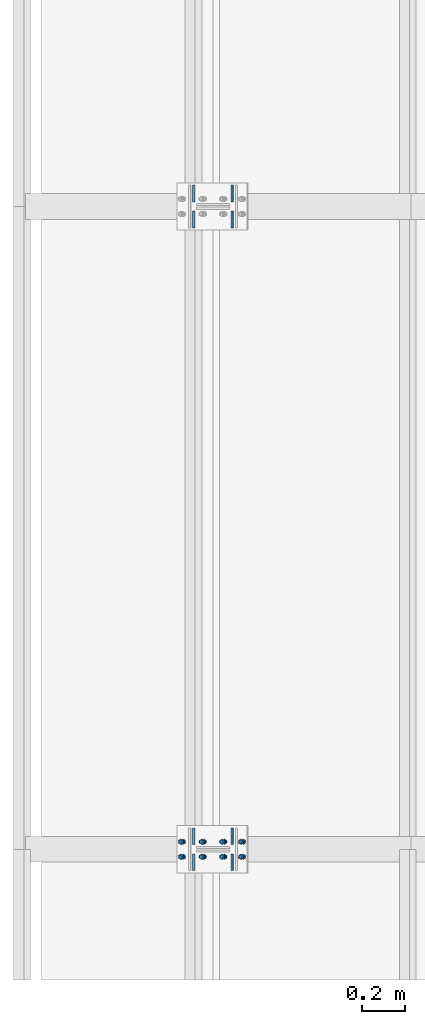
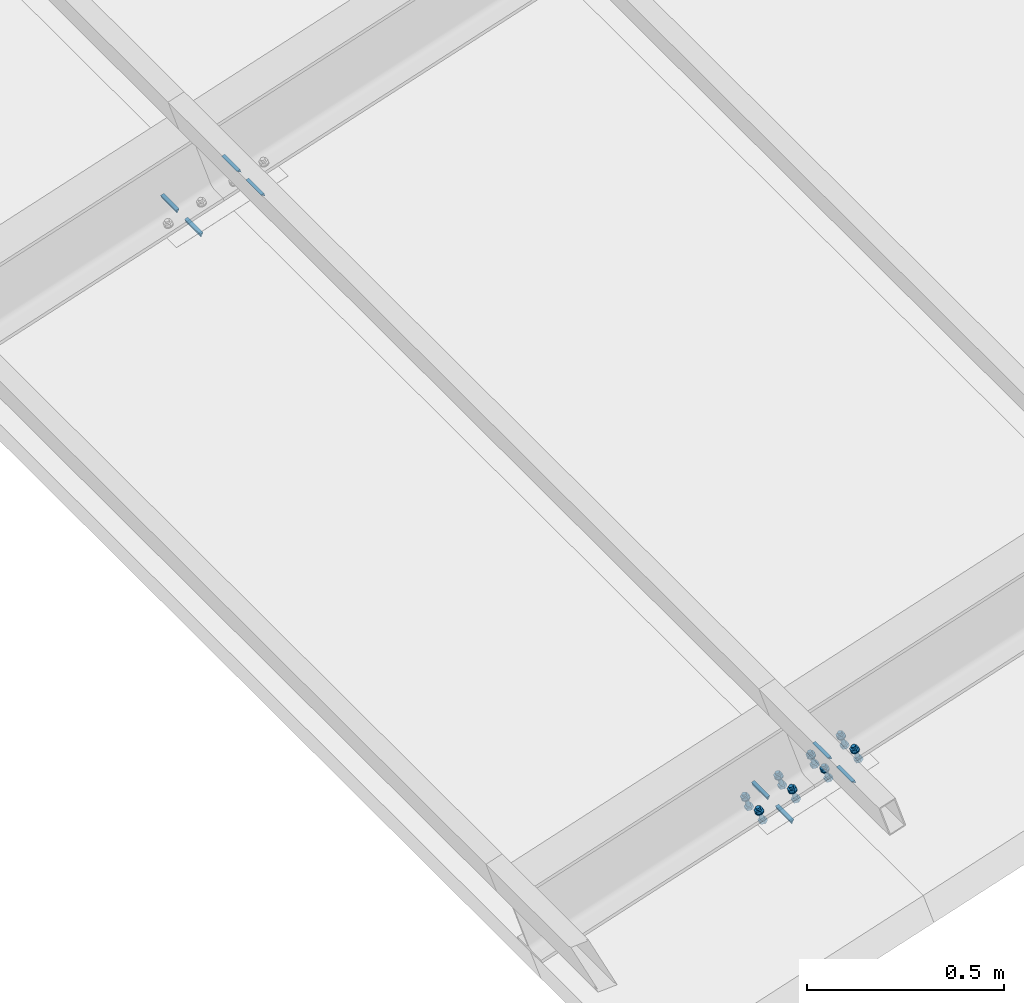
# One storey, part 24 of 53: 32 mechanical fasteners, 16 fasteners.
"""IFC4 building model written with IfcOpenShell, lengths in metres."""

from ifc_helpers import new_model, si_unit, frame, origin_with_axes, place, context, project, spatial, polyline, outline, extrude, type_object, element, save


model = new_model("IFC4")

# Units and contexts
model_context = context("Model", 3, precision=1e-05, world=origin_with_axes())
ifc_project = project(units=[si_unit("LENGTHUNIT", "METRE"), si_unit("AREAUNIT", "SQUARE_METRE"), si_unit("VOLUMEUNIT", "CUBIC_METRE"), si_unit("MASSUNIT", "GRAM", prefix="KILO"), si_unit("TIMEUNIT", "SECOND"), si_unit("PLANEANGLEUNIT", "RADIAN"), si_unit("SOLIDANGLEUNIT", "STERADIAN"), si_unit("THERMODYNAMICTEMPERATUREUNIT", "DEGREE_CELSIUS")], contexts=[model_context])

# Site, building, storey
placement_1 = place(None, origin_with_axes())
site = spatial("IfcSite", under=ifc_project, at=placement_1, Name="Italia", CompositionType="ELEMENT")
building = spatial("IfcBuilding", under=site, at=placement_1, Name="Capannone", CompositionType="ELEMENT")
storey_placement = place(None, frame((0.0, 0.0, 5.550000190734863), z_axis=(0.0, 0.0, 1.0), x_axis=(1.0, 0.0, 0.0)))
storey = spatial("IfcBuildingStorey", under=building, at=storey_placement, Name="Storey 1", CompositionType="ELEMENT", Elevation=5.550000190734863)

# Fasteners
fastener_type_1 = type_object("IfcFastenerType", Name="Collegamenti 0101_0001 0103_0003 0105_0005 0107_0007 0109_0009 0111_0011", PredefinedType="WELD")
placement_2 = place(placement_1, origin_with_axes())
fastener_1_placement = place(placement_2, origin_with_axes())
element("IfcFastener", 1, at=fastener_1_placement, inside=storey, type_object=fastener_type_1, Name="Collegamenti 0101_0001 0103_0003 0105_0005 0107_0007 0109_0009 0111_0011", context=model_context, shape_type="SweptSolid", body=[
    extrude(outline(polyline([(0.0, 0.0), (-0.00619942, -0.0127454), (-0.00937507, -0.00308037), (0.0, 0.0)])), frame((-0.0846885, 0.10005, 5.50644), z_axis=(0.0, -1.0, 0.0), x_axis=(1.0, 0.0, 0.0)), (0.0, 0.0, 1.0), 0.0786),
])
fastener_type_2 = type_object("IfcFastenerType", Name="Collegamenti 0101_0001 0103_0003 0105_0005 0107_0007 0109_0009 0111_0011", PredefinedType="WELD")
fastener_2_placement = place(placement_2, origin_with_axes())
element("IfcFastener", 2, at=fastener_2_placement, inside=storey, type_object=fastener_type_2, Name="Collegamenti 0101_0001 0103_0003 0105_0005 0107_0007 0109_0009 0111_0011", context=model_context, shape_type="SweptSolid", body=[
    extrude(outline(polyline([(0.0, 0.0), (-0.0125507, -0.00658464), (-0.00937507, 0.00308037), (0.0, 0.0)])), frame((0.0846564, 0.02145, 5.56208), z_axis=(0.0, 1.0, 0.0), x_axis=(-1.0, 0.0, 0.0)), (0.0, 0.0, 1.0), 0.0786),
])
fastener_type_3 = type_object("IfcFastenerType", Name="Collegamenti 0101_0001 0103_0003 0105_0005 0107_0007 0109_0009 0111_0011", PredefinedType="WELD")
fastener_3_placement = place(placement_2, origin_with_axes())
element("IfcFastener", 3, at=fastener_3_placement, inside=storey, type_object=fastener_type_3, Name="Collegamenti 0101_0001 0103_0003 0105_0005 0107_0007 0109_0009 0111_0011", context=model_context, shape_type="SweptSolid", body=[
    extrude(outline(polyline([(0.0, 0.0), (-0.0125507, -0.00658464), (-0.00937507, 0.00308037), (0.0, 0.0)])), frame((0.0846564, -0.10005, 5.56208), z_axis=(0.0, 1.0, 0.0), x_axis=(-1.0, 0.0, 0.0)), (0.0, 0.0, 1.0), 0.0786),
])
fastener_type_4 = type_object("IfcFastenerType", Name="Collegamenti 0101_0001 0103_0003 0105_0005 0107_0007 0109_0009 0111_0011", PredefinedType="WELD")
fastener_4_placement = place(placement_2, origin_with_axes())
element("IfcFastener", 4, at=fastener_4_placement, inside=storey, type_object=fastener_type_4, Name="Collegamenti 0101_0001 0103_0003 0105_0005 0107_0007 0109_0009 0111_0011", context=model_context, shape_type="SweptSolid", body=[
    extrude(outline(polyline([(0.0, 0.0), (-0.00619942, -0.0127454), (-0.00937507, -0.00308037), (0.0, 0.0)])), frame((-0.0846885, -0.02145, 5.50644), z_axis=(0.0, -1.0, 0.0), x_axis=(1.0, 0.0, 0.0)), (0.0, 0.0, 1.0), 0.0786),
])
fastener_type_5 = type_object("IfcFastenerType", Name="Collegamenti 0101_0001 0103_0003 0105_0005 0107_0007 0109_0009 0111_0011", PredefinedType="WELD")
fastener_5_placement = place(placement_2, origin_with_axes())
element("IfcFastener", 5, at=fastener_5_placement, inside=storey, type_object=fastener_type_5, Name="Collegamenti 0101_0001 0103_0003 0105_0005 0107_0007 0109_0009 0111_0011", context=model_context, shape_type="SweptSolid", body=[
    extrude(outline(polyline([(0.0, 0.0), (-0.00619942, -0.0127454), (-0.00937507, -0.00308037), (0.0, 0.0)])), frame((-0.0846885, 0.10005, 5.50644), z_axis=(0.0, -1.0, 0.0), x_axis=(1.0, 0.0, 0.0)), (0.0, 0.0, 1.0), 0.0786),
])
fastener_type_6 = type_object("IfcFastenerType", Name="Collegamenti 0101_0001 0103_0003 0105_0005 0107_0007 0109_0009 0111_0011", PredefinedType="WELD")
fastener_6_placement = place(placement_2, origin_with_axes())
element("IfcFastener", 6, at=fastener_6_placement, inside=storey, type_object=fastener_type_6, Name="Collegamenti 0101_0001 0103_0003 0105_0005 0107_0007 0109_0009 0111_0011", context=model_context, shape_type="SweptSolid", body=[
    extrude(outline(polyline([(0.0, 0.0), (-0.0125507, -0.00658464), (-0.00937507, 0.00308037), (0.0, 0.0)])), frame((0.0846564, 0.02145, 5.56208), z_axis=(0.0, 1.0, 0.0), x_axis=(-1.0, 0.0, 0.0)), (0.0, 0.0, 1.0), 0.0786),
])
fastener_type_7 = type_object("IfcFastenerType", Name="Collegamenti 0101_0001 0103_0003 0105_0005 0107_0007 0109_0009 0111_0011", PredefinedType="WELD")
fastener_7_placement = place(placement_2, origin_with_axes())
element("IfcFastener", 7, at=fastener_7_placement, inside=storey, type_object=fastener_type_7, Name="Collegamenti 0101_0001 0103_0003 0105_0005 0107_0007 0109_0009 0111_0011", context=model_context, shape_type="SweptSolid", body=[
    extrude(outline(polyline([(0.0, 0.0), (-0.0125507, -0.00658464), (-0.00937507, 0.00308037), (0.0, 0.0)])), frame((0.0846564, -0.10005, 5.56208), z_axis=(0.0, 1.0, 0.0), x_axis=(-1.0, 0.0, 0.0)), (0.0, 0.0, 1.0), 0.0786),
])
fastener_type_8 = type_object("IfcFastenerType", Name="Collegamenti 0101_0001 0103_0003 0105_0005 0107_0007 0109_0009 0111_0011", PredefinedType="WELD")
fastener_8_placement = place(placement_2, origin_with_axes())
element("IfcFastener", 8, at=fastener_8_placement, inside=storey, type_object=fastener_type_8, Name="Collegamenti 0101_0001 0103_0003 0105_0005 0107_0007 0109_0009 0111_0011", context=model_context, shape_type="SweptSolid", body=[
    extrude(outline(polyline([(0.0, 0.0), (-0.00619942, -0.0127454), (-0.00937507, -0.00308037), (0.0, 0.0)])), frame((-0.0846885, -0.02145, 5.50644), z_axis=(0.0, -1.0, 0.0), x_axis=(1.0, 0.0, 0.0)), (0.0, 0.0, 1.0), 0.0786),
])

# Mechanical fasteners
mechanical_fastener_type_1 = type_object("IfcMechanicalFastenerType", Name="Collegamenti 0101_0001 0103_0003 0105_0005 0107_0007 0109_0009 0111_0011", PredefinedType="BOLT")
mechanical_fastener_1_placement = place(placement_2, origin_with_axes())
element("IfcMechanicalFastener", 9, at=mechanical_fastener_1_placement, inside=storey, type_object=mechanical_fastener_type_1, Name="Collegamenti 0101_0001 0103_0003 0105_0005 0107_0007 0109_0009 0111_0011", NominalDiameter=0.012, context=model_context, shape_type="SweptSolid", body=[
    extrude(outline(polyline([(0.0, 0.0), (0.012, 0.0), (0.018, -0.0103923), (0.012, -0.0207845), (0.0, -0.0207845), (-0.006, -0.0103923), (0.0, 0.0)])), frame((-0.130325, 0.029, 5.49139), z_axis=(0.312164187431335, 0.0, -0.95002818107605), x_axis=(0.0, 1.0, 0.0)), (0.0, 0.0, 1.0), 0.0095997),
])
mechanical_fastener_type_2 = type_object("IfcMechanicalFastenerType", Name="Collegamenti 0101_0001 0103_0003 0105_0005 0107_0007 0109_0009 0111_0011", PredefinedType="BOLT")
mechanical_fastener_2_placement = place(placement_2, origin_with_axes())
element("IfcMechanicalFastener", 10, at=mechanical_fastener_2_placement, inside=storey, type_object=mechanical_fastener_type_2, Name="Collegamenti 0101_0001 0103_0003 0105_0005 0107_0007 0109_0009 0111_0011", NominalDiameter=0.012, context=model_context, shape_type="SweptSolid", body=[
    extrude(outline(polyline([(0.0, 0.0), (-0.000204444, -0.00155306), (-0.000803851, -0.00300002), (-0.00175736, -0.00424254), (-0.003, -0.00519633), (-0.00444709, -0.0057956), (-0.006, -0.00600004), (-0.00755291, -0.0057956), (-0.009, -0.00519633), (-0.0102426, -0.00424254), (-0.0111962, -0.00300002), (-0.0117956, -0.00155306), (-0.012, 0.0), (-0.0117956, 0.00155294), (-0.0111962, 0.00300002), (-0.0102426, 0.00424254), (-0.009, 0.00519621), (-0.00755291, 0.00579548), (-0.006, 0.00600004), (-0.00444709, 0.00579548), (-0.003, 0.00519621), (-0.00175736, 0.00424254), (-0.000803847, 0.00300002), (-0.000204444, 0.00155294), (0.0, 0.0)])), frame((-0.153558, 0.041, 5.52881), z_axis=(0.312153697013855, 0.0, -0.950031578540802), x_axis=(0.0, 1.0, 0.0)), (0.0, 0.0, 1.0), 0.0428),
])
mechanical_fastener_type_3 = type_object("IfcMechanicalFastenerType", Name="Collegamenti 0101_0001 0103_0003 0105_0005 0107_0007 0109_0009 0111_0011", PredefinedType="BOLT")
mechanical_fastener_3_placement = place(placement_2, origin_with_axes())
element("IfcMechanicalFastener", 11, at=mechanical_fastener_3_placement, inside=storey, type_object=mechanical_fastener_type_3, Name="Collegamenti 0101_0001 0103_0003 0105_0005 0107_0007 0109_0009 0111_0011", NominalDiameter=0.012, context=model_context, shape_type="SweptSolid", body=[
    extrude(outline(polyline([(0.0, 0.0), (0.012, 0.0), (0.018, -0.0103924), (0.012, -0.0207846), (0.0, -0.0207846), (-0.006, -0.0103924), (0.0, 0.0)])), frame((-0.141687, 0.029, 5.52597), z_axis=(0.312164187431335, 0.0, -0.95002818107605), x_axis=(0.0, 1.0, 0.0)), (0.0, 0.0, 1.0), 0.0095997),
])
mechanical_fastener_type_4 = type_object("IfcMechanicalFastenerType", Name="Collegamenti 0101_0001 0103_0003 0105_0005 0107_0007 0109_0009 0111_0011", PredefinedType="BOLT")
mechanical_fastener_4_placement = place(placement_2, origin_with_axes())
element("IfcMechanicalFastener", 12, at=mechanical_fastener_4_placement, inside=storey, type_object=mechanical_fastener_type_4, Name="Collegamenti 0101_0001 0103_0003 0105_0005 0107_0007 0109_0009 0111_0011", NominalDiameter=0.024, context=model_context, shape_type="SweptSolid", body=[
    extrude(outline(polyline([(0.0, 0.0), (-0.000408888, -0.00310576), (-0.00160769, -0.00599992), (-0.00351472, -0.0084852), (-0.006, -0.0103922), (-0.00889417, -0.0115911), (-0.012, -0.0119998), (-0.0151058, -0.0115911), (-0.018, -0.0103922), (-0.0204853, -0.0084852), (-0.0223923, -0.00599992), (-0.0235911, -0.00310576), (-0.024, 0.0), (-0.0235911, 0.003106), (-0.0223923, 0.00600016), (-0.0204853, 0.00848532), (-0.018, 0.0103924), (-0.0151058, 0.0115913), (-0.012, 0.0120001), (-0.00889417, 0.0115913), (-0.006, 0.0103924), (-0.00351471, 0.00848532), (-0.00160769, 0.00600016), (-0.000408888, 0.003106), (0.0, 0.0)])), frame((-0.148563, 0.047, 5.51361), z_axis=(0.312059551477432, 0.0, -0.95006251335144), x_axis=(0.0, 1.0, 0.0)), (0.0, 0.0, 1.0), 0.00200058),
])
mechanical_fastener_type_5 = type_object("IfcMechanicalFastenerType", Name="Collegamenti 0101_0001 0103_0003 0105_0005 0107_0007 0109_0009 0111_0011", PredefinedType="BOLT")
mechanical_fastener_5_placement = place(placement_2, origin_with_axes())
element("IfcMechanicalFastener", 13, at=mechanical_fastener_5_placement, inside=storey, type_object=mechanical_fastener_type_5, Name="Collegamenti 0101_0001 0103_0003 0105_0005 0107_0007 0109_0009 0111_0011", NominalDiameter=0.012, context=model_context, shape_type="SweptSolid", body=[
    extrude(outline(polyline([(0.0, 0.0), (0.012, 0.0), (0.018, -0.0103923), (0.012, -0.0207845), (0.0, -0.0207845), (-0.006, -0.0103923), (0.0, 0.0)])), frame((-0.130325, -0.041, 5.49139), z_axis=(0.312164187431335, 0.0, -0.95002818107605), x_axis=(0.0, 1.0, 0.0)), (0.0, 0.0, 1.0), 0.0095997),
])
mechanical_fastener_type_6 = type_object("IfcMechanicalFastenerType", Name="Collegamenti 0101_0001 0103_0003 0105_0005 0107_0007 0109_0009 0111_0011", PredefinedType="BOLT")
mechanical_fastener_6_placement = place(placement_2, origin_with_axes())
element("IfcMechanicalFastener", 14, at=mechanical_fastener_6_placement, inside=storey, type_object=mechanical_fastener_type_6, Name="Collegamenti 0101_0001 0103_0003 0105_0005 0107_0007 0109_0009 0111_0011", NominalDiameter=0.012, context=model_context, shape_type="SweptSolid", body=[
    extrude(outline(polyline([(0.0, 0.0), (-0.000204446, -0.00155306), (-0.000803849, -0.00300002), (-0.00175736, -0.00424254), (-0.003, -0.00519633), (-0.00444709, -0.0057956), (-0.006, -0.00600004), (-0.00755291, -0.0057956), (-0.009, -0.00519633), (-0.0102426, -0.00424254), (-0.0111962, -0.00300002), (-0.0117956, -0.00155306), (-0.012, 0.0), (-0.0117956, 0.00155294), (-0.0111962, 0.00300002), (-0.0102426, 0.00424254), (-0.009, 0.00519621), (-0.00755291, 0.00579548), (-0.006, 0.00600004), (-0.00444709, 0.00579548), (-0.003, 0.00519621), (-0.00175736, 0.00424254), (-0.000803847, 0.00300002), (-0.000204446, 0.00155294), (0.0, 0.0)])), frame((-0.153558, -0.029, 5.52881), z_axis=(0.312153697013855, 0.0, -0.950031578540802), x_axis=(0.0, 1.0, 0.0)), (0.0, 0.0, 1.0), 0.0428),
])
mechanical_fastener_type_7 = type_object("IfcMechanicalFastenerType", Name="Collegamenti 0101_0001 0103_0003 0105_0005 0107_0007 0109_0009 0111_0011", PredefinedType="BOLT")
mechanical_fastener_7_placement = place(placement_2, origin_with_axes())
element("IfcMechanicalFastener", 15, at=mechanical_fastener_7_placement, inside=storey, type_object=mechanical_fastener_type_7, Name="Collegamenti 0101_0001 0103_0003 0105_0005 0107_0007 0109_0009 0111_0011", NominalDiameter=0.012, context=model_context, shape_type="SweptSolid", body=[
    extrude(outline(polyline([(0.0, 0.0), (0.012, 0.0), (0.018, -0.0103924), (0.012, -0.0207846), (0.0, -0.0207846), (-0.006, -0.0103924), (0.0, 0.0)])), frame((-0.141687, -0.041, 5.52597), z_axis=(0.312164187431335, 0.0, -0.95002818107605), x_axis=(0.0, 1.0, 0.0)), (0.0, 0.0, 1.0), 0.0095997),
])
mechanical_fastener_type_8 = type_object("IfcMechanicalFastenerType", Name="Collegamenti 0101_0001 0103_0003 0105_0005 0107_0007 0109_0009 0111_0011", PredefinedType="BOLT")
mechanical_fastener_8_placement = place(placement_2, origin_with_axes())
element("IfcMechanicalFastener", 16, at=mechanical_fastener_8_placement, inside=storey, type_object=mechanical_fastener_type_8, Name="Collegamenti 0101_0001 0103_0003 0105_0005 0107_0007 0109_0009 0111_0011", NominalDiameter=0.024, context=model_context, shape_type="SweptSolid", body=[
    extrude(outline(polyline([(0.0, 0.0), (-0.00040889, -0.00310576), (-0.0016077, -0.00599992), (-0.00351472, -0.0084852), (-0.006, -0.0103922), (-0.00889417, -0.0115911), (-0.012, -0.0119998), (-0.0151058, -0.0115911), (-0.018, -0.0103922), (-0.0204853, -0.0084852), (-0.0223923, -0.00599992), (-0.0235911, -0.00310576), (-0.024, 0.0), (-0.0235911, 0.003106), (-0.0223923, 0.00600016), (-0.0204853, 0.00848532), (-0.018, 0.0103924), (-0.0151058, 0.0115913), (-0.012, 0.0120001), (-0.00889417, 0.0115913), (-0.006, 0.0103924), (-0.00351472, 0.00848532), (-0.00160769, 0.00600016), (-0.00040889, 0.003106), (0.0, 0.0)])), frame((-0.148563, -0.023, 5.51361), z_axis=(0.312059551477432, 0.0, -0.95006251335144), x_axis=(0.0, 1.0, 0.0)), (0.0, 0.0, 1.0), 0.00200058),
])
mechanical_fastener_type_9 = type_object("IfcMechanicalFastenerType", Name="Collegamenti 0101_0001 0103_0003 0105_0005 0107_0007 0109_0009 0111_0011", PredefinedType="BOLT")
mechanical_fastener_9_placement = place(placement_2, origin_with_axes())
element("IfcMechanicalFastener", 17, at=mechanical_fastener_9_placement, inside=storey, type_object=mechanical_fastener_type_9, Name="Collegamenti 0101_0001 0103_0003 0105_0005 0107_0007 0109_0009 0111_0011", NominalDiameter=0.012, context=model_context, shape_type="SweptSolid", body=[
    extrude(outline(polyline([(0.0, 0.0), (0.012, 0.0), (0.018, -0.0103924), (0.012, -0.0207846), (0.0, -0.0207846), (-0.006, -0.0103924), (0.0, 0.0)])), frame((0.0620569, 0.029, 5.5546), z_axis=(0.312162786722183, 0.0, -0.950028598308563), x_axis=(0.0, 1.0, 0.0)), (0.0, 0.0, 1.0), 0.0095997),
])
mechanical_fastener_type_10 = type_object("IfcMechanicalFastenerType", Name="Collegamenti 0101_0001 0103_0003 0105_0005 0107_0007 0109_0009 0111_0011", PredefinedType="BOLT")
mechanical_fastener_10_placement = place(placement_2, origin_with_axes())
element("IfcMechanicalFastener", 18, at=mechanical_fastener_10_placement, inside=storey, type_object=mechanical_fastener_type_10, Name="Collegamenti 0101_0001 0103_0003 0105_0005 0107_0007 0109_0009 0111_0011", NominalDiameter=0.012, context=model_context, shape_type="SweptSolid", body=[
    extrude(outline(polyline([(0.0, 0.0), (-0.000204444, -0.00155294), (-0.000803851, -0.0029999), (-0.00175736, -0.00424266), (-0.003, -0.00519621), (-0.00444709, -0.00579548), (-0.006, -0.00600004), (-0.00755291, -0.00579548), (-0.009, -0.00519621), (-0.0102426, -0.00424266), (-0.0111962, -0.0029999), (-0.0117956, -0.00155294), (-0.012, 0.0), (-0.0117956, 0.00155306), (-0.0111962, 0.00300002), (-0.0102426, 0.00424254), (-0.009, 0.00519621), (-0.00755291, 0.0057956), (-0.006, 0.00600004), (-0.00444709, 0.0057956), (-0.003, 0.00519621), (-0.00175736, 0.00424254), (-0.000803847, 0.00300002), (-0.000204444, 0.00155306), (0.0, 0.0)])), frame((0.0388237, 0.041, 5.59202), z_axis=(0.312154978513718, 0.0, -0.950031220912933), x_axis=(0.0, 1.0, 0.0)), (0.0, 0.0, 1.0), 0.0428),
])
mechanical_fastener_type_11 = type_object("IfcMechanicalFastenerType", Name="Collegamenti 0101_0001 0103_0003 0105_0005 0107_0007 0109_0009 0111_0011", PredefinedType="BOLT")
mechanical_fastener_11_placement = place(placement_2, origin_with_axes())
element("IfcMechanicalFastener", 19, at=mechanical_fastener_11_placement, inside=storey, type_object=mechanical_fastener_type_11, Name="Collegamenti 0101_0001 0103_0003 0105_0005 0107_0007 0109_0009 0111_0011", NominalDiameter=0.012, context=model_context, shape_type="SweptSolid", body=[
    extrude(outline(polyline([(0.0, 0.0), (0.012, 0.0), (0.018, -0.0103922), (0.012, -0.0207845), (0.0, -0.0207845), (-0.006, -0.0103922), (0.0, 0.0)])), frame((0.0506946, 0.029, 5.58918), z_axis=(0.312163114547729, 0.0, -0.950028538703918), x_axis=(0.0, 1.0, 0.0)), (0.0, 0.0, 1.0), 0.0095997),
])
mechanical_fastener_type_12 = type_object("IfcMechanicalFastenerType", Name="Collegamenti 0101_0001 0103_0003 0105_0005 0107_0007 0109_0009 0111_0011", PredefinedType="BOLT")
mechanical_fastener_12_placement = place(placement_2, origin_with_axes())
element("IfcMechanicalFastener", 20, at=mechanical_fastener_12_placement, inside=storey, type_object=mechanical_fastener_type_12, Name="Collegamenti 0101_0001 0103_0003 0105_0005 0107_0007 0109_0009 0111_0011", NominalDiameter=0.024, context=model_context, shape_type="SweptSolid", body=[
    extrude(outline(polyline([(0.0, 0.0), (-0.000408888, -0.003106), (-0.00160769, -0.00600004), (-0.00351472, -0.00848544), (-0.006, -0.0103923), (-0.00889417, -0.0115912), (-0.012, -0.0120001), (-0.0151058, -0.0115912), (-0.018, -0.0103923), (-0.0204853, -0.00848544), (-0.0223923, -0.00600004), (-0.0235911, -0.003106), (-0.024, 0.0), (-0.0235911, 0.00310588), (-0.0223923, 0.0059998), (-0.0204853, 0.0084852), (-0.018, 0.0103922), (-0.0151058, 0.011591), (-0.012, 0.012), (-0.00889417, 0.011591), (-0.006, 0.0103922), (-0.00351471, 0.0084852), (-0.00160769, 0.0059998), (-0.000408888, 0.00310588), (0.0, 0.0)])), frame((0.0438182, 0.047, 5.57682), z_axis=(0.312204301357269, 0.0, -0.950015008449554), x_axis=(0.0, 1.0, 0.0)), (0.0, 0.0, 1.0), 0.00199967),
])
mechanical_fastener_type_13 = type_object("IfcMechanicalFastenerType", Name="Collegamenti 0101_0001 0103_0003 0105_0005 0107_0007 0109_0009 0111_0011", PredefinedType="BOLT")
mechanical_fastener_13_placement = place(placement_2, origin_with_axes())
element("IfcMechanicalFastener", 21, at=mechanical_fastener_13_placement, inside=storey, type_object=mechanical_fastener_type_13, Name="Collegamenti 0101_0001 0103_0003 0105_0005 0107_0007 0109_0009 0111_0011", NominalDiameter=0.012, context=model_context, shape_type="SweptSolid", body=[
    extrude(outline(polyline([(0.0, 0.0), (0.012, 0.0), (0.018, -0.0103924), (0.012, -0.0207846), (0.0, -0.0207846), (-0.006, -0.0103924), (0.0, 0.0)])), frame((0.0620569, -0.041, 5.5546), z_axis=(0.312162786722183, 0.0, -0.950028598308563), x_axis=(0.0, 1.0, 0.0)), (0.0, 0.0, 1.0), 0.0095997),
])
mechanical_fastener_type_14 = type_object("IfcMechanicalFastenerType", Name="Collegamenti 0101_0001 0103_0003 0105_0005 0107_0007 0109_0009 0111_0011", PredefinedType="BOLT")
mechanical_fastener_14_placement = place(placement_2, origin_with_axes())
element("IfcMechanicalFastener", 22, at=mechanical_fastener_14_placement, inside=storey, type_object=mechanical_fastener_type_14, Name="Collegamenti 0101_0001 0103_0003 0105_0005 0107_0007 0109_0009 0111_0011", NominalDiameter=0.012, context=model_context, shape_type="SweptSolid", body=[
    extrude(outline(polyline([(0.0, 0.0), (-0.000204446, -0.00155294), (-0.000803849, -0.0029999), (-0.00175736, -0.00424266), (-0.003, -0.00519621), (-0.00444709, -0.00579548), (-0.006, -0.00600004), (-0.00755291, -0.00579548), (-0.009, -0.00519621), (-0.0102426, -0.00424266), (-0.0111962, -0.0029999), (-0.0117956, -0.00155294), (-0.012, 0.0), (-0.0117956, 0.00155306), (-0.0111962, 0.00300002), (-0.0102426, 0.00424254), (-0.009, 0.00519621), (-0.00755291, 0.0057956), (-0.006, 0.00600004), (-0.00444709, 0.0057956), (-0.003, 0.00519621), (-0.00175736, 0.00424254), (-0.000803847, 0.00300002), (-0.000204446, 0.00155306), (0.0, 0.0)])), frame((0.0388237, -0.029, 5.59202), z_axis=(0.312154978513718, 0.0, -0.950031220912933), x_axis=(0.0, 1.0, 0.0)), (0.0, 0.0, 1.0), 0.0428),
])
mechanical_fastener_type_15 = type_object("IfcMechanicalFastenerType", Name="Collegamenti 0101_0001 0103_0003 0105_0005 0107_0007 0109_0009 0111_0011", PredefinedType="BOLT")
mechanical_fastener_15_placement = place(placement_2, origin_with_axes())
element("IfcMechanicalFastener", 23, at=mechanical_fastener_15_placement, inside=storey, type_object=mechanical_fastener_type_15, Name="Collegamenti 0101_0001 0103_0003 0105_0005 0107_0007 0109_0009 0111_0011", NominalDiameter=0.012, context=model_context, shape_type="SweptSolid", body=[
    extrude(outline(polyline([(0.0, 0.0), (0.012, 0.0), (0.018, -0.0103922), (0.012, -0.0207845), (0.0, -0.0207845), (-0.006, -0.0103922), (0.0, 0.0)])), frame((0.0506946, -0.041, 5.58918), z_axis=(0.312163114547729, 0.0, -0.950028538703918), x_axis=(0.0, 1.0, 0.0)), (0.0, 0.0, 1.0), 0.0095997),
])
mechanical_fastener_type_16 = type_object("IfcMechanicalFastenerType", Name="Collegamenti 0101_0001 0103_0003 0105_0005 0107_0007 0109_0009 0111_0011", PredefinedType="BOLT")
mechanical_fastener_16_placement = place(placement_2, origin_with_axes())
element("IfcMechanicalFastener", 24, at=mechanical_fastener_16_placement, inside=storey, type_object=mechanical_fastener_type_16, Name="Collegamenti 0101_0001 0103_0003 0105_0005 0107_0007 0109_0009 0111_0011", NominalDiameter=0.024, context=model_context, shape_type="SweptSolid", body=[
    extrude(outline(polyline([(0.0, 0.0), (-0.00040889, -0.003106), (-0.0016077, -0.00600004), (-0.00351472, -0.00848544), (-0.006, -0.0103923), (-0.00889417, -0.0115912), (-0.012, -0.0120001), (-0.0151058, -0.0115912), (-0.018, -0.0103923), (-0.0204853, -0.00848544), (-0.0223923, -0.00600004), (-0.0235911, -0.003106), (-0.024, 0.0), (-0.0235911, 0.00310588), (-0.0223923, 0.0059998), (-0.0204853, 0.0084852), (-0.018, 0.0103922), (-0.0151058, 0.011591), (-0.012, 0.012), (-0.00889417, 0.011591), (-0.006, 0.0103922), (-0.00351472, 0.0084852), (-0.00160769, 0.0059998), (-0.00040889, 0.00310588), (0.0, 0.0)])), frame((0.0438182, -0.023, 5.57682), z_axis=(0.312204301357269, 0.0, -0.950015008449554), x_axis=(0.0, 1.0, 0.0)), (0.0, 0.0, 1.0), 0.00199967),
])
mechanical_fastener_type_17 = type_object("IfcMechanicalFastenerType", Name="Collegamenti 0101_0001 0103_0003 0105_0005 0107_0007 0109_0009 0111_0011", PredefinedType="BOLT")
mechanical_fastener_17_placement = place(placement_2, origin_with_axes())
element("IfcMechanicalFastener", 25, at=mechanical_fastener_17_placement, inside=storey, type_object=mechanical_fastener_type_17, Name="Collegamenti 0101_0001 0103_0003 0105_0005 0107_0007 0109_0009 0111_0011", NominalDiameter=0.012, context=model_context, shape_type="SweptSolid", body=[
    extrude(outline(polyline([(0.0, 0.0), (0.012, 0.0), (0.018, -0.0103922), (0.012, -0.0207846), (0.0, -0.0207846), (-0.006, -0.0103922), (0.0, 0.0)])), frame((-0.0329462, 0.029, 5.52339), z_axis=(0.312148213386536, 0.0, -0.95003342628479), x_axis=(0.0, 1.0, 0.0)), (0.0, 0.0, 1.0), 0.00960015),
])
mechanical_fastener_type_18 = type_object("IfcMechanicalFastenerType", Name="Collegamenti 0101_0001 0103_0003 0105_0005 0107_0007 0109_0009 0111_0011", PredefinedType="BOLT")
mechanical_fastener_18_placement = place(placement_2, origin_with_axes())
element("IfcMechanicalFastener", 26, at=mechanical_fastener_18_placement, inside=storey, type_object=mechanical_fastener_type_18, Name="Collegamenti 0101_0001 0103_0003 0105_0005 0107_0007 0109_0009 0111_0011", NominalDiameter=0.012, context=model_context, shape_type="SweptSolid", body=[
    extrude(outline(polyline([(0.0, 0.0), (-0.000204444, -0.00155294), (-0.000803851, -0.00300002), (-0.00175736, -0.00424266), (-0.003, -0.00519621), (-0.00444709, -0.0057956), (-0.006, -0.00600004), (-0.00755291, -0.0057956), (-0.009, -0.00519621), (-0.0102426, -0.00424266), (-0.0111962, -0.00300002), (-0.0117956, -0.00155294), (-0.012, 0.0), (-0.0117956, 0.00155306), (-0.0111962, 0.00300002), (-0.0102426, 0.00424254), (-0.009, 0.00519609), (-0.00755291, 0.0057956), (-0.006, 0.00600004), (-0.00444709, 0.0057956), (-0.003, 0.00519609), (-0.00175736, 0.00424254), (-0.000803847, 0.00300002), (-0.000204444, 0.00155306), (0.0, 0.0)])), frame((-0.0561794, 0.041, 5.5608), z_axis=(0.312153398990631, 0.0, -0.950031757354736), x_axis=(0.0, 1.0, 0.0)), (0.0, 0.0, 1.0), 0.0428),
])
mechanical_fastener_type_19 = type_object("IfcMechanicalFastenerType", Name="Collegamenti 0101_0001 0103_0003 0105_0005 0107_0007 0109_0009 0111_0011", PredefinedType="BOLT")
mechanical_fastener_19_placement = place(placement_2, origin_with_axes())
element("IfcMechanicalFastener", 27, at=mechanical_fastener_19_placement, inside=storey, type_object=mechanical_fastener_type_19, Name="Collegamenti 0101_0001 0103_0003 0105_0005 0107_0007 0109_0009 0111_0011", NominalDiameter=0.012, context=model_context, shape_type="SweptSolid", body=[
    extrude(outline(polyline([(0.0, 0.0), (0.012, 0.0), (0.018, -0.0103922), (0.012, -0.0207845), (0.0, -0.0207845), (-0.006, -0.0103922), (0.0, 0.0)])), frame((-0.0443086, 0.029, 5.55797), z_axis=(0.31214839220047, 0.0, -0.9500333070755), x_axis=(0.0, 1.0, 0.0)), (0.0, 0.0, 1.0), 0.00960015),
])
mechanical_fastener_type_20 = type_object("IfcMechanicalFastenerType", Name="Collegamenti 0101_0001 0103_0003 0105_0005 0107_0007 0109_0009 0111_0011", PredefinedType="BOLT")
mechanical_fastener_20_placement = place(placement_2, origin_with_axes())
element("IfcMechanicalFastener", 28, at=mechanical_fastener_20_placement, inside=storey, type_object=mechanical_fastener_type_20, Name="Collegamenti 0101_0001 0103_0003 0105_0005 0107_0007 0109_0009 0111_0011", NominalDiameter=0.024, context=model_context, shape_type="SweptSolid", body=[
    extrude(outline(polyline([(0.0, 0.0), (-0.000408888, -0.00310588), (-0.00160769, -0.00600004), (-0.00351472, -0.00848532), (-0.006, -0.0103923), (-0.00889417, -0.0115912), (-0.012, -0.012), (-0.0151058, -0.0115912), (-0.018, -0.0103923), (-0.0204853, -0.00848532), (-0.0223923, -0.00600004), (-0.0235911, -0.00310588), (-0.024, 0.0), (-0.0235911, 0.00310588), (-0.0223923, 0.00600004), (-0.0204853, 0.0084852), (-0.018, 0.0103923), (-0.0151058, 0.0115912), (-0.012, 0.012), (-0.00889417, 0.0115912), (-0.006, 0.0103923), (-0.00351471, 0.0084852), (-0.00160769, 0.00600004), (-0.000408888, 0.00310588), (0.0, 0.0)])), frame((-0.051185, 0.047, 5.5456), z_axis=(0.312062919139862, 0.0, -0.950061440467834), x_axis=(0.0, 1.0, 0.0)), (0.0, 0.0, 1.0), 0.00200058),
])
mechanical_fastener_type_21 = type_object("IfcMechanicalFastenerType", Name="Collegamenti 0101_0001 0103_0003 0105_0005 0107_0007 0109_0009 0111_0011", PredefinedType="BOLT")
mechanical_fastener_21_placement = place(placement_2, origin_with_axes())
element("IfcMechanicalFastener", 29, at=mechanical_fastener_21_placement, inside=storey, type_object=mechanical_fastener_type_21, Name="Collegamenti 0101_0001 0103_0003 0105_0005 0107_0007 0109_0009 0111_0011", NominalDiameter=0.012, context=model_context, shape_type="SweptSolid", body=[
    extrude(outline(polyline([(0.0, 0.0), (0.012, 0.0), (0.018, -0.0103922), (0.012, -0.0207846), (0.0, -0.0207846), (-0.006, -0.0103922), (0.0, 0.0)])), frame((-0.0329462, -0.041, 5.52339), z_axis=(0.312148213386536, 0.0, -0.95003342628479), x_axis=(0.0, 1.0, 0.0)), (0.0, 0.0, 1.0), 0.00960015),
])
mechanical_fastener_type_22 = type_object("IfcMechanicalFastenerType", Name="Collegamenti 0101_0001 0103_0003 0105_0005 0107_0007 0109_0009 0111_0011", PredefinedType="BOLT")
mechanical_fastener_22_placement = place(placement_2, origin_with_axes())
element("IfcMechanicalFastener", 30, at=mechanical_fastener_22_placement, inside=storey, type_object=mechanical_fastener_type_22, Name="Collegamenti 0101_0001 0103_0003 0105_0005 0107_0007 0109_0009 0111_0011", NominalDiameter=0.012, context=model_context, shape_type="SweptSolid", body=[
    extrude(outline(polyline([(0.0, 0.0), (-0.000204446, -0.00155294), (-0.000803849, -0.00300002), (-0.00175736, -0.00424266), (-0.003, -0.00519621), (-0.00444709, -0.0057956), (-0.006, -0.00600004), (-0.00755291, -0.0057956), (-0.009, -0.00519621), (-0.0102426, -0.00424266), (-0.0111962, -0.00300002), (-0.0117956, -0.00155294), (-0.012, 0.0), (-0.0117956, 0.00155306), (-0.0111962, 0.00300002), (-0.0102426, 0.00424254), (-0.009, 0.00519609), (-0.00755291, 0.0057956), (-0.006, 0.00600004), (-0.00444709, 0.0057956), (-0.003, 0.00519609), (-0.00175736, 0.00424254), (-0.000803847, 0.00300002), (-0.000204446, 0.00155306), (0.0, 0.0)])), frame((-0.0561794, -0.029, 5.5608), z_axis=(0.312153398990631, 0.0, -0.950031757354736), x_axis=(0.0, 1.0, 0.0)), (0.0, 0.0, 1.0), 0.0428),
])
mechanical_fastener_type_23 = type_object("IfcMechanicalFastenerType", Name="Collegamenti 0101_0001 0103_0003 0105_0005 0107_0007 0109_0009 0111_0011", PredefinedType="BOLT")
mechanical_fastener_23_placement = place(placement_2, origin_with_axes())
element("IfcMechanicalFastener", 31, at=mechanical_fastener_23_placement, inside=storey, type_object=mechanical_fastener_type_23, Name="Collegamenti 0101_0001 0103_0003 0105_0005 0107_0007 0109_0009 0111_0011", NominalDiameter=0.012, context=model_context, shape_type="SweptSolid", body=[
    extrude(outline(polyline([(0.0, 0.0), (0.012, 0.0), (0.018, -0.0103922), (0.012, -0.0207845), (0.0, -0.0207845), (-0.006, -0.0103922), (0.0, 0.0)])), frame((-0.0443086, -0.041, 5.55797), z_axis=(0.31214839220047, 0.0, -0.9500333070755), x_axis=(0.0, 1.0, 0.0)), (0.0, 0.0, 1.0), 0.00960015),
])
mechanical_fastener_type_24 = type_object("IfcMechanicalFastenerType", Name="Collegamenti 0101_0001 0103_0003 0105_0005 0107_0007 0109_0009 0111_0011", PredefinedType="BOLT")
mechanical_fastener_24_placement = place(placement_2, origin_with_axes())
element("IfcMechanicalFastener", 32, at=mechanical_fastener_24_placement, inside=storey, type_object=mechanical_fastener_type_24, Name="Collegamenti 0101_0001 0103_0003 0105_0005 0107_0007 0109_0009 0111_0011", NominalDiameter=0.024, context=model_context, shape_type="SweptSolid", body=[
    extrude(outline(polyline([(0.0, 0.0), (-0.00040889, -0.00310588), (-0.0016077, -0.00600004), (-0.00351472, -0.00848532), (-0.006, -0.0103923), (-0.00889417, -0.0115912), (-0.012, -0.012), (-0.0151058, -0.0115912), (-0.018, -0.0103923), (-0.0204853, -0.00848532), (-0.0223923, -0.00600004), (-0.0235911, -0.00310588), (-0.024, 0.0), (-0.0235911, 0.00310588), (-0.0223923, 0.00600004), (-0.0204853, 0.0084852), (-0.018, 0.0103923), (-0.0151058, 0.0115912), (-0.012, 0.012), (-0.00889417, 0.0115912), (-0.006, 0.0103923), (-0.00351472, 0.0084852), (-0.00160769, 0.00600004), (-0.00040889, 0.00310588), (0.0, 0.0)])), frame((-0.051185, -0.023, 5.5456), z_axis=(0.312062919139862, 0.0, -0.950061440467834), x_axis=(0.0, 1.0, 0.0)), (0.0, 0.0, 1.0), 0.00200058),
])
mechanical_fastener_type_25 = type_object("IfcMechanicalFastenerType", Name="Collegamenti 0101_0001 0103_0003 0105_0005 0107_0007 0109_0009 0111_0011", PredefinedType="BOLT")
mechanical_fastener_25_placement = place(placement_2, origin_with_axes())
element("IfcMechanicalFastener", 33, at=mechanical_fastener_25_placement, inside=storey, type_object=mechanical_fastener_type_25, Name="Collegamenti 0101_0001 0103_0003 0105_0005 0107_0007 0109_0009 0111_0011", NominalDiameter=0.012, context=model_context, shape_type="SweptSolid", body=[
    extrude(outline(polyline([(0.0, 0.0), (0.012, 0.0), (0.018, -0.0103923), (0.012, -0.0207845), (0.0, -0.0207845), (-0.006, -0.0103923), (0.0, 0.0)])), frame((0.15003, 0.029, 5.58351), z_axis=(0.312164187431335, 0.0, -0.95002818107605), x_axis=(0.0, 1.0, 0.0)), (0.0, 0.0, 1.0), 0.0095997),
])
mechanical_fastener_type_26 = type_object("IfcMechanicalFastenerType", Name="Collegamenti 0101_0001 0103_0003 0105_0005 0107_0007 0109_0009 0111_0011", PredefinedType="BOLT")
mechanical_fastener_26_placement = place(placement_2, origin_with_axes())
element("IfcMechanicalFastener", 34, at=mechanical_fastener_26_placement, inside=storey, type_object=mechanical_fastener_type_26, Name="Collegamenti 0101_0001 0103_0003 0105_0005 0107_0007 0109_0009 0111_0011", NominalDiameter=0.012, context=model_context, shape_type="SweptSolid", body=[
    extrude(outline(polyline([(0.0, 0.0), (-0.000204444, -0.00155306), (-0.000803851, -0.00300014), (-0.00175736, -0.00424266), (-0.003, -0.00519633), (-0.00444709, -0.00579572), (-0.006, -0.00600016), (-0.00755291, -0.00579572), (-0.009, -0.00519633), (-0.0102426, -0.00424266), (-0.0111962, -0.00300014), (-0.0117956, -0.00155306), (-0.012, 0.0), (-0.0117956, 0.00155294), (-0.0111962, 0.0029999), (-0.0102426, 0.00424254), (-0.009, 0.00519609), (-0.00755291, 0.00579548), (-0.006, 0.00599992), (-0.00444709, 0.00579548), (-0.003, 0.00519609), (-0.00175736, 0.00424254), (-0.000803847, 0.0029999), (-0.000204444, 0.00155294), (0.0, 0.0)])), frame((0.126797, 0.041, 5.62092), z_axis=(0.312151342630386, 0.0, -0.950032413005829), x_axis=(0.0, 1.0, 0.0)), (0.0, 0.0, 1.0), 0.0428004),
])
mechanical_fastener_type_27 = type_object("IfcMechanicalFastenerType", Name="Collegamenti 0101_0001 0103_0003 0105_0005 0107_0007 0109_0009 0111_0011", PredefinedType="BOLT")
mechanical_fastener_27_placement = place(placement_2, origin_with_axes())
element("IfcMechanicalFastener", 35, at=mechanical_fastener_27_placement, inside=storey, type_object=mechanical_fastener_type_27, Name="Collegamenti 0101_0001 0103_0003 0105_0005 0107_0007 0109_0009 0111_0011", NominalDiameter=0.012, context=model_context, shape_type="SweptSolid", body=[
    extrude(outline(polyline([(0.0, 0.0), (0.012, 0.0), (0.018, -0.0103924), (0.012, -0.0207846), (0.0, -0.0207846), (-0.006, -0.0103924), (0.0, 0.0)])), frame((0.138667, 0.029, 5.61809), z_axis=(0.312164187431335, 0.0, -0.95002818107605), x_axis=(0.0, 1.0, 0.0)), (0.0, 0.0, 1.0), 0.0095997),
])
mechanical_fastener_type_28 = type_object("IfcMechanicalFastenerType", Name="Collegamenti 0101_0001 0103_0003 0105_0005 0107_0007 0109_0009 0111_0011", PredefinedType="BOLT")
mechanical_fastener_28_placement = place(placement_2, origin_with_axes())
element("IfcMechanicalFastener", 36, at=mechanical_fastener_28_placement, inside=storey, type_object=mechanical_fastener_type_28, Name="Collegamenti 0101_0001 0103_0003 0105_0005 0107_0007 0109_0009 0111_0011", NominalDiameter=0.024, context=model_context, shape_type="SweptSolid", body=[
    extrude(outline(polyline([(0.0, 0.0), (-0.000408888, -0.00310588), (-0.00160769, -0.00600004), (-0.00351472, -0.00848532), (-0.006, -0.0103923), (-0.00889417, -0.0115911), (-0.012, -0.012), (-0.0151058, -0.0115911), (-0.018, -0.0103923), (-0.0204853, -0.00848532), (-0.0223923, -0.00600004), (-0.0235911, -0.00310588), (-0.024, 0.0), (-0.0235911, 0.00310588), (-0.0223923, 0.00600004), (-0.0204853, 0.0084852), (-0.018, 0.0103923), (-0.0151058, 0.0115912), (-0.012, 0.012), (-0.00889417, 0.0115912), (-0.006, 0.0103923), (-0.00351471, 0.0084852), (-0.00160769, 0.00600004), (-0.000408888, 0.00310588), (0.0, 0.0)])), frame((0.131791, 0.047, 5.60572), z_axis=(0.312059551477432, 0.0, -0.95006251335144), x_axis=(0.0, 1.0, 0.0)), (0.0, 0.0, 1.0), 0.00200058),
])
mechanical_fastener_type_29 = type_object("IfcMechanicalFastenerType", Name="Collegamenti 0101_0001 0103_0003 0105_0005 0107_0007 0109_0009 0111_0011", PredefinedType="BOLT")
mechanical_fastener_29_placement = place(placement_2, origin_with_axes())
element("IfcMechanicalFastener", 37, at=mechanical_fastener_29_placement, inside=storey, type_object=mechanical_fastener_type_29, Name="Collegamenti 0101_0001 0103_0003 0105_0005 0107_0007 0109_0009 0111_0011", NominalDiameter=0.012, context=model_context, shape_type="SweptSolid", body=[
    extrude(outline(polyline([(0.0, 0.0), (0.012, 0.0), (0.018, -0.0103923), (0.012, -0.0207845), (0.0, -0.0207845), (-0.006, -0.0103923), (0.0, 0.0)])), frame((0.15003, -0.041, 5.58351), z_axis=(0.312164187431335, 0.0, -0.95002818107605), x_axis=(0.0, 1.0, 0.0)), (0.0, 0.0, 1.0), 0.0095997),
])
mechanical_fastener_type_30 = type_object("IfcMechanicalFastenerType", Name="Collegamenti 0101_0001 0103_0003 0105_0005 0107_0007 0109_0009 0111_0011", PredefinedType="BOLT")
mechanical_fastener_30_placement = place(placement_2, origin_with_axes())
element("IfcMechanicalFastener", 38, at=mechanical_fastener_30_placement, inside=storey, type_object=mechanical_fastener_type_30, Name="Collegamenti 0101_0001 0103_0003 0105_0005 0107_0007 0109_0009 0111_0011", NominalDiameter=0.012, context=model_context, shape_type="SweptSolid", body=[
    extrude(outline(polyline([(0.0, 0.0), (-0.000204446, -0.00155306), (-0.000803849, -0.00300014), (-0.00175736, -0.00424266), (-0.003, -0.00519633), (-0.00444709, -0.00579572), (-0.006, -0.00600016), (-0.00755291, -0.00579572), (-0.009, -0.00519633), (-0.0102426, -0.00424266), (-0.0111962, -0.00300014), (-0.0117956, -0.00155306), (-0.012, 0.0), (-0.0117956, 0.00155294), (-0.0111962, 0.0029999), (-0.0102426, 0.00424254), (-0.009, 0.00519609), (-0.00755291, 0.00579548), (-0.006, 0.00599992), (-0.00444709, 0.00579548), (-0.003, 0.00519609), (-0.00175736, 0.00424254), (-0.000803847, 0.0029999), (-0.000204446, 0.00155294), (0.0, 0.0)])), frame((0.126797, -0.029, 5.62092), z_axis=(0.312151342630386, 0.0, -0.950032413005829), x_axis=(0.0, 1.0, 0.0)), (0.0, 0.0, 1.0), 0.0428004),
])
mechanical_fastener_type_31 = type_object("IfcMechanicalFastenerType", Name="Collegamenti 0101_0001 0103_0003 0105_0005 0107_0007 0109_0009 0111_0011", PredefinedType="BOLT")
mechanical_fastener_31_placement = place(placement_2, origin_with_axes())
element("IfcMechanicalFastener", 39, at=mechanical_fastener_31_placement, inside=storey, type_object=mechanical_fastener_type_31, Name="Collegamenti 0101_0001 0103_0003 0105_0005 0107_0007 0109_0009 0111_0011", NominalDiameter=0.012, context=model_context, shape_type="SweptSolid", body=[
    extrude(outline(polyline([(0.0, 0.0), (0.012, 0.0), (0.018, -0.0103924), (0.012, -0.0207846), (0.0, -0.0207846), (-0.006, -0.0103924), (0.0, 0.0)])), frame((0.138667, -0.041, 5.61809), z_axis=(0.312164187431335, 0.0, -0.95002818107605), x_axis=(0.0, 1.0, 0.0)), (0.0, 0.0, 1.0), 0.0095997),
])
mechanical_fastener_type_32 = type_object("IfcMechanicalFastenerType", Name="Collegamenti 0101_0001 0103_0003 0105_0005 0107_0007 0109_0009 0111_0011", PredefinedType="BOLT")
mechanical_fastener_32_placement = place(placement_2, origin_with_axes())
element("IfcMechanicalFastener", 40, at=mechanical_fastener_32_placement, inside=storey, type_object=mechanical_fastener_type_32, Name="Collegamenti 0101_0001 0103_0003 0105_0005 0107_0007 0109_0009 0111_0011", NominalDiameter=0.024, context=model_context, shape_type="SweptSolid", body=[
    extrude(outline(polyline([(0.0, 0.0), (-0.00040889, -0.00310588), (-0.0016077, -0.00600004), (-0.00351472, -0.00848532), (-0.006, -0.0103923), (-0.00889417, -0.0115911), (-0.012, -0.012), (-0.0151058, -0.0115911), (-0.018, -0.0103923), (-0.0204853, -0.00848532), (-0.0223923, -0.00600004), (-0.0235911, -0.00310588), (-0.024, 0.0), (-0.0235911, 0.00310588), (-0.0223923, 0.00600004), (-0.0204853, 0.0084852), (-0.018, 0.0103923), (-0.0151058, 0.0115912), (-0.012, 0.012), (-0.00889417, 0.0115912), (-0.006, 0.0103923), (-0.00351472, 0.0084852), (-0.00160769, 0.00600004), (-0.00040889, 0.00310588), (0.0, 0.0)])), frame((0.131791, -0.023, 5.60572), z_axis=(0.312059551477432, 0.0, -0.95006251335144), x_axis=(0.0, 1.0, 0.0)), (0.0, 0.0, 1.0), 0.00200058),
])

# Fasteners
fastener_type_9 = type_object("IfcFastenerType", Name="Collegamenti 0101_0001 0103_0003 0105_0005 0107_0007 0109_0009 0111_0011", PredefinedType="WELD")
fastener_9_placement = place(placement_2, origin_with_axes())
element("IfcFastener", 41, at=fastener_9_placement, inside=storey, type_object=fastener_type_9, Name="Collegamenti 0101_0001 0103_0003 0105_0005 0107_0007 0109_0009 0111_0011", context=model_context, shape_type="SweptSolid", body=[
    extrude(outline(polyline([(0.0, 0.0), (-0.00619942, -0.0127454), (-0.00937507, -0.00308037), (0.0, 0.0)])), frame((-0.0846885, 3.10005, 5.50644), z_axis=(0.0, -1.0, 0.0), x_axis=(1.0, 0.0, 0.0)), (0.0, 0.0, 1.0), 0.0785999),
])
fastener_type_10 = type_object("IfcFastenerType", Name="Collegamenti 0101_0001 0103_0003 0105_0005 0107_0007 0109_0009 0111_0011", PredefinedType="WELD")
fastener_10_placement = place(placement_2, origin_with_axes())
element("IfcFastener", 42, at=fastener_10_placement, inside=storey, type_object=fastener_type_10, Name="Collegamenti 0101_0001 0103_0003 0105_0005 0107_0007 0109_0009 0111_0011", context=model_context, shape_type="SweptSolid", body=[
    extrude(outline(polyline([(0.0, 0.0), (-0.0125507, -0.00658464), (-0.00937507, 0.00308037), (0.0, 0.0)])), frame((0.0846564, 3.02145, 5.56208), z_axis=(0.0, 1.0, 0.0), x_axis=(-1.0, 0.0, 0.0)), (0.0, 0.0, 1.0), 0.0785999),
])
fastener_type_11 = type_object("IfcFastenerType", Name="Collegamenti 0101_0001 0103_0003 0105_0005 0107_0007 0109_0009 0111_0011", PredefinedType="WELD")
fastener_11_placement = place(placement_2, origin_with_axes())
element("IfcFastener", 43, at=fastener_11_placement, inside=storey, type_object=fastener_type_11, Name="Collegamenti 0101_0001 0103_0003 0105_0005 0107_0007 0109_0009 0111_0011", context=model_context, shape_type="SweptSolid", body=[
    extrude(outline(polyline([(0.0, 0.0), (-0.0125507, -0.00658464), (-0.00937507, 0.00308037), (0.0, 0.0)])), frame((0.0846564, 2.89995, 5.56208), z_axis=(0.0, 1.0, 0.0), x_axis=(-1.0, 0.0, 0.0)), (0.0, 0.0, 1.0), 0.0785999),
])
fastener_type_12 = type_object("IfcFastenerType", Name="Collegamenti 0101_0001 0103_0003 0105_0005 0107_0007 0109_0009 0111_0011", PredefinedType="WELD")
fastener_12_placement = place(placement_2, origin_with_axes())
element("IfcFastener", 44, at=fastener_12_placement, inside=storey, type_object=fastener_type_12, Name="Collegamenti 0101_0001 0103_0003 0105_0005 0107_0007 0109_0009 0111_0011", context=model_context, shape_type="SweptSolid", body=[
    extrude(outline(polyline([(0.0, 0.0), (-0.00619942, -0.0127454), (-0.00937507, -0.00308037), (0.0, 0.0)])), frame((-0.0846885, 2.97855, 5.50644), z_axis=(0.0, -1.0, 0.0), x_axis=(1.0, 0.0, 0.0)), (0.0, 0.0, 1.0), 0.0785999),
])
fastener_type_13 = type_object("IfcFastenerType", Name="Collegamenti 0101_0001 0103_0003 0105_0005 0107_0007 0109_0009 0111_0011", PredefinedType="WELD")
fastener_13_placement = place(placement_2, origin_with_axes())
element("IfcFastener", 45, at=fastener_13_placement, inside=storey, type_object=fastener_type_13, Name="Collegamenti 0101_0001 0103_0003 0105_0005 0107_0007 0109_0009 0111_0011", context=model_context, shape_type="SweptSolid", body=[
    extrude(outline(polyline([(0.0, 0.0), (-0.00619942, -0.0127454), (-0.00937507, -0.00308037), (0.0, 0.0)])), frame((-0.0846885, 3.10005, 5.50644), z_axis=(0.0, -1.0, 0.0), x_axis=(1.0, 0.0, 0.0)), (0.0, 0.0, 1.0), 0.0785999),
])
fastener_type_14 = type_object("IfcFastenerType", Name="Collegamenti 0101_0001 0103_0003 0105_0005 0107_0007 0109_0009 0111_0011", PredefinedType="WELD")
fastener_14_placement = place(placement_2, origin_with_axes())
element("IfcFastener", 46, at=fastener_14_placement, inside=storey, type_object=fastener_type_14, Name="Collegamenti 0101_0001 0103_0003 0105_0005 0107_0007 0109_0009 0111_0011", context=model_context, shape_type="SweptSolid", body=[
    extrude(outline(polyline([(0.0, 0.0), (-0.0125507, -0.00658464), (-0.00937507, 0.00308037), (0.0, 0.0)])), frame((0.0846564, 3.02145, 5.56208), z_axis=(0.0, 1.0, 0.0), x_axis=(-1.0, 0.0, 0.0)), (0.0, 0.0, 1.0), 0.0785999),
])
fastener_type_15 = type_object("IfcFastenerType", Name="Collegamenti 0101_0001 0103_0003 0105_0005 0107_0007 0109_0009 0111_0011", PredefinedType="WELD")
fastener_15_placement = place(placement_2, origin_with_axes())
element("IfcFastener", 47, at=fastener_15_placement, inside=storey, type_object=fastener_type_15, Name="Collegamenti 0101_0001 0103_0003 0105_0005 0107_0007 0109_0009 0111_0011", context=model_context, shape_type="SweptSolid", body=[
    extrude(outline(polyline([(0.0, 0.0), (-0.0125507, -0.00658464), (-0.00937507, 0.00308037), (0.0, 0.0)])), frame((0.0846564, 2.89995, 5.56208), z_axis=(0.0, 1.0, 0.0), x_axis=(-1.0, 0.0, 0.0)), (0.0, 0.0, 1.0), 0.0785999),
])
fastener_type_16 = type_object("IfcFastenerType", Name="Collegamenti 0101_0001 0103_0003 0105_0005 0107_0007 0109_0009 0111_0011", PredefinedType="WELD")
fastener_16_placement = place(placement_2, origin_with_axes())
element("IfcFastener", 48, at=fastener_16_placement, inside=storey, type_object=fastener_type_16, Name="Collegamenti 0101_0001 0103_0003 0105_0005 0107_0007 0109_0009 0111_0011", context=model_context, shape_type="SweptSolid", body=[
    extrude(outline(polyline([(0.0, 0.0), (-0.00619942, -0.0127454), (-0.00937507, -0.00308037), (0.0, 0.0)])), frame((-0.0846885, 2.97855, 5.50644), z_axis=(0.0, -1.0, 0.0), x_axis=(1.0, 0.0, 0.0)), (0.0, 0.0, 1.0), 0.0785999),
])

save(model, "model.ifc")
